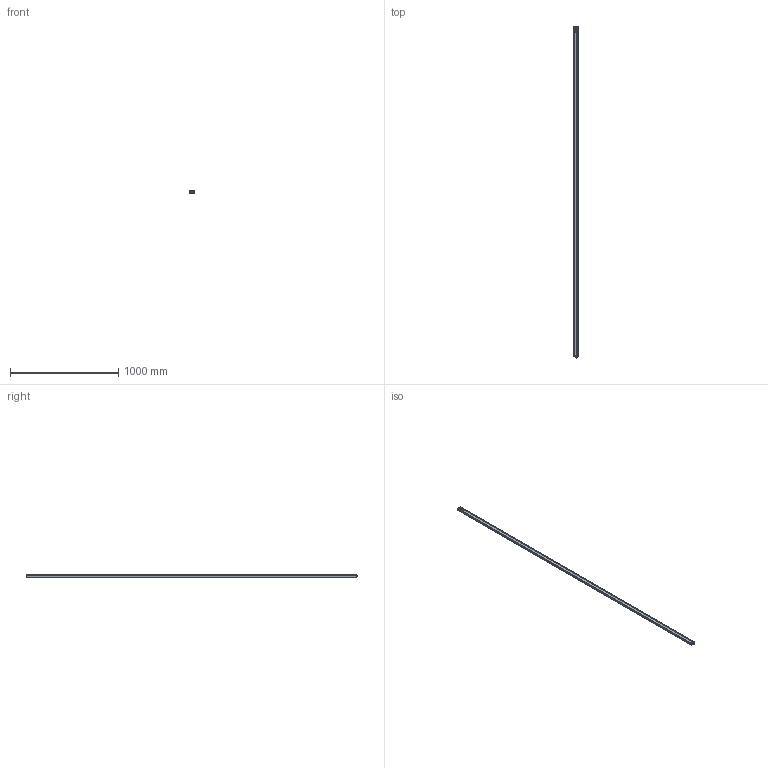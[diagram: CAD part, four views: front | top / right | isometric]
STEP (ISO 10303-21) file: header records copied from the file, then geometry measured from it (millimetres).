
FILE_DESCRIPTION(/* description */ (''),/* implementation_level */ '2;1');
FILE_NAME(/* name */ 'C:\Users\andre\SynologyDrive\Optoscan\Libreria Componenti\00 - Barriere\Barriera sorgente\Argo_3040_RX.stp',/* time_stamp */ '2021-04-23T12:51:44+02:00',/* author */ ('andre'),/* organization */ (''),/* preprocessor_version */ 'ST-DEVELOPER v18',/* originating_system */ 'Autodesk Inventor 2020',/* authorisation */ '');
FILE_SCHEMA (('AUTOMOTIVE_DESIGN { 1 0 10303 214 3 1 1 }'));
Length unit declared in the file: millimetre
Products named in the file (1): Argo_3040_RX
Bounding box: 40.5 x 3073.3 x 20.75 mm (x, y, z)
Volume: 602661.1 mm3; surface area: 802982.4 mm2
Topology: 1 solids, 1 shells, 676 faces, 1854 edges, 1185 vertices
Faces by surface type: plane 315, cylinder 191, bspline 94, torus 62, cone 8, sphere 6
Full cylindrical faces by diameter (mm): 1 x4, 2.5 x4, 3 x4, 3.5 x4, 5.5 x4, 8 x1, 10.5 x2, 11.75 x9, 15.7 x1, 17.5 x1
Entity records: 27592 total; most frequent: CARTESIAN_POINT 10103, ORIENTED_EDGE 3690, DIRECTION 3271, EDGE_CURVE 1845, VERTEX_POINT 1185, AXIS2_PLACEMENT_3D 1127, LINE 1017, VECTOR 1017
